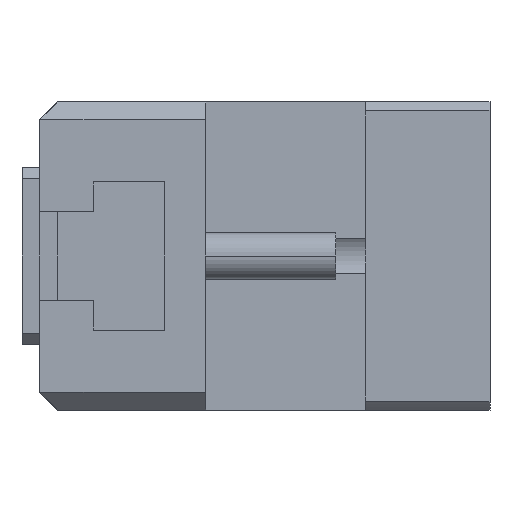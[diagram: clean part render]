
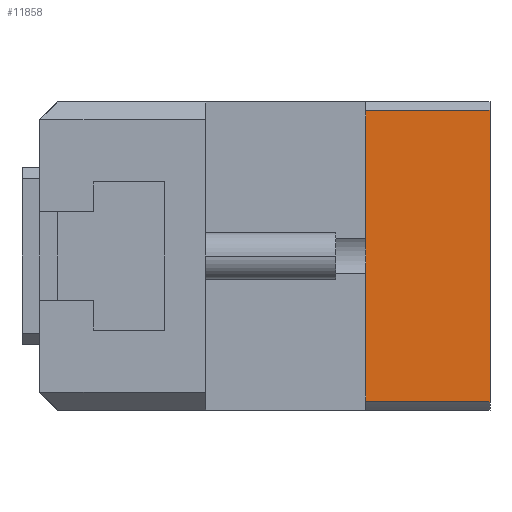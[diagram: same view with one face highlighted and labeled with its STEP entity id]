
A CAD part, left-side view. The second image highlights one B-rep face of the part: STEP entity #11858.
In plain terms, the highlighted planar face has unit normal (-1, 0, 0).
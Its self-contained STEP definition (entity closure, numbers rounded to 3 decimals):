
#103 = EDGE_CURVE ( 'NONE', #36996, #22892, #11390, .T. ) ;
#693 = DIRECTION ( 'NONE',  ( 1., 0., 0. ) ) ;
#1996 = CARTESIAN_POINT ( 'NONE',  ( -27., 0., -24.561 ) ) ;
#3310 = ORIENTED_EDGE ( 'NONE', *, *, #24239, .F. ) ;
#5005 = CARTESIAN_POINT ( 'NONE',  ( -27., 26., 24.561 ) ) ;
#6808 = VECTOR ( 'NONE', #42991, 1000. ) ;
#6951 = CARTESIAN_POINT ( 'NONE',  ( -27., 0., 24.561 ) ) ;
#10169 = VECTOR ( 'NONE', #22078, 1000. ) ;
#10397 = EDGE_CURVE ( 'NONE', #22892, #14700, #27197, .T. ) ;
#11390 = LINE ( 'NONE', #37562, #10169 ) ;
#11858 = ADVANCED_FACE ( 'NONE', ( #19987 ), #23657, .F. ) ;
#13970 = AXIS2_PLACEMENT_3D ( 'NONE', #46505, #693, #27448 ) ;
#14700 = VERTEX_POINT ( 'NONE', #5005 ) ;
#18401 = EDGE_CURVE ( 'NONE', #36996, #45335, #41382, .T. ) ;
#19987 = FACE_OUTER_BOUND ( 'NONE', #35277, .T. ) ;
#21072 = VECTOR ( 'NONE', #43826, 1000. ) ;
#22078 = DIRECTION ( 'NONE',  ( 0., 1., 0. ) ) ;
#22892 = VERTEX_POINT ( 'NONE', #38593 ) ;
#23657 = PLANE ( 'NONE',  #13970 ) ;
#24239 = EDGE_CURVE ( 'NONE', #14700, #45335, #29793, .T. ) ;
#24825 = ORIENTED_EDGE ( 'NONE', *, *, #10397, .F. ) ;
#27197 = LINE ( 'NONE', #39160, #6808 ) ;
#27448 = DIRECTION ( 'NONE',  ( 0., 0., -1. ) ) ;
#29793 = LINE ( 'NONE', #39509, #48936 ) ;
#31888 = ORIENTED_EDGE ( 'NONE', *, *, #103, .F. ) ;
#35277 = EDGE_LOOP ( 'NONE', ( #3310, #24825, #31888, #44576 ) ) ;
#36158 = CARTESIAN_POINT ( 'NONE',  ( -27., 0., 0. ) ) ;
#36996 = VERTEX_POINT ( 'NONE', #1996 ) ;
#37562 = CARTESIAN_POINT ( 'NONE',  ( -27., 26., -24.561 ) ) ;
#38593 = CARTESIAN_POINT ( 'NONE',  ( -27., 26., -24.561 ) ) ;
#39160 = CARTESIAN_POINT ( 'NONE',  ( -27., 26., -24.561 ) ) ;
#39509 = CARTESIAN_POINT ( 'NONE',  ( -27., 26., 24.561 ) ) ;
#41382 = LINE ( 'NONE', #36158, #21072 ) ;
#42991 = DIRECTION ( 'NONE',  ( 0., 0., 1. ) ) ;
#43826 = DIRECTION ( 'NONE',  ( 0., 0., 1. ) ) ;
#44576 = ORIENTED_EDGE ( 'NONE', *, *, #18401, .T. ) ;
#45335 = VERTEX_POINT ( 'NONE', #6951 ) ;
#46505 = CARTESIAN_POINT ( 'NONE',  ( -27., 26., -24.561 ) ) ;
#47185 = DIRECTION ( 'NONE',  ( 0., -1., 0. ) ) ;
#48936 = VECTOR ( 'NONE', #47185, 1000. ) ;
